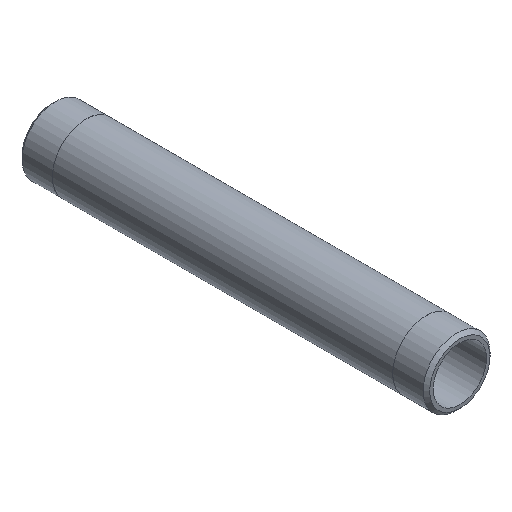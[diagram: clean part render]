
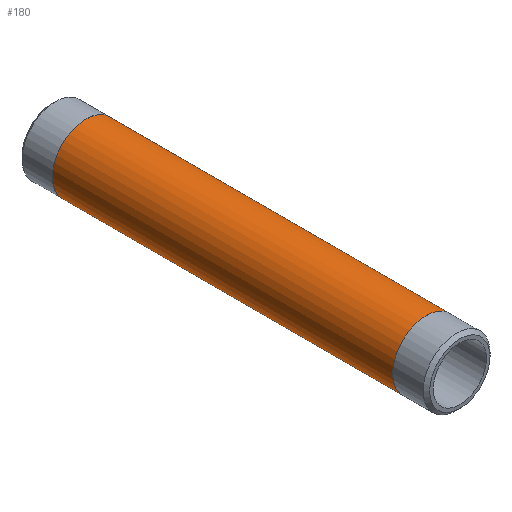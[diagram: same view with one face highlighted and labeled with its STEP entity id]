
A CAD part, isometric view. The second image highlights one B-rep face of the part: STEP entity #180.
In plain terms, the highlighted cylindrical face has radius 16.701 mm (diameter 33.401 mm), a full revolution.
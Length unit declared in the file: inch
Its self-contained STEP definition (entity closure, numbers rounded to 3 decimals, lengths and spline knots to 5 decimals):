
#25=CYLINDRICAL_SURFACE('',#220,0.6575);
#34=FACE_OUTER_BOUND('',#47,.T.);
#47=EDGE_LOOP('',(#155,#156,#157,#158,#159,#160));
#55=LINE('',#338,#61);
#61=VECTOR('',#283,0.6575);
#77=CIRCLE('',#218,0.6575);
#78=CIRCLE('',#219,0.6575);
#79=CIRCLE('',#221,0.6575);
#80=CIRCLE('',#222,0.6575);
#95=VERTEX_POINT('',#329);
#96=VERTEX_POINT('',#330);
#97=VERTEX_POINT('',#334);
#98=VERTEX_POINT('',#335);
#117=EDGE_CURVE('',#95,#96,#77,.T.);
#118=EDGE_CURVE('',#96,#95,#78,.T.);
#119=EDGE_CURVE('',#97,#98,#79,.T.);
#120=EDGE_CURVE('',#98,#97,#80,.T.);
#121=EDGE_CURVE('',#98,#96,#55,.T.);
#155=ORIENTED_EDGE('',*,*,#119,.F.);
#156=ORIENTED_EDGE('',*,*,#120,.F.);
#157=ORIENTED_EDGE('',*,*,#121,.T.);
#158=ORIENTED_EDGE('',*,*,#118,.T.);
#159=ORIENTED_EDGE('',*,*,#117,.T.);
#160=ORIENTED_EDGE('',*,*,#121,.F.);
#180=ADVANCED_FACE('',(#34),#25,.T.);
#218=AXIS2_PLACEMENT_3D('',#331,#273,#274);
#219=AXIS2_PLACEMENT_3D('',#332,#275,#276);
#220=AXIS2_PLACEMENT_3D('',#333,#277,#278);
#221=AXIS2_PLACEMENT_3D('',#336,#279,#280);
#222=AXIS2_PLACEMENT_3D('',#337,#281,#282);
#273=DIRECTION('center_axis',(0.,-1.,0.));
#274=DIRECTION('ref_axis',(1.,0.,0.));
#275=DIRECTION('center_axis',(0.,-1.,0.));
#276=DIRECTION('ref_axis',(1.,0.,0.));
#277=DIRECTION('center_axis',(0.,-1.,0.));
#278=DIRECTION('ref_axis',(0.,0.,-1.));
#279=DIRECTION('center_axis',(0.,-1.,0.));
#280=DIRECTION('ref_axis',(1.,0.,0.));
#281=DIRECTION('center_axis',(0.,-1.,0.));
#282=DIRECTION('ref_axis',(1.,0.,0.));
#283=DIRECTION('',(0.,1.,0.));
#329=CARTESIAN_POINT('',(0.,7.339,-0.6575));
#330=CARTESIAN_POINT('',(0.,7.339,0.6575));
#331=CARTESIAN_POINT('Origin',(0.,7.339,0.));
#332=CARTESIAN_POINT('Origin',(0.,7.339,0.));
#333=CARTESIAN_POINT('Origin',(0.,4.,0.));
#334=CARTESIAN_POINT('',(0.,0.661,-0.6575));
#335=CARTESIAN_POINT('',(0.,0.661,0.6575));
#336=CARTESIAN_POINT('Origin',(0.,0.661,0.));
#337=CARTESIAN_POINT('Origin',(0.,0.661,0.));
#338=CARTESIAN_POINT('',(0.,4.,0.6575));
